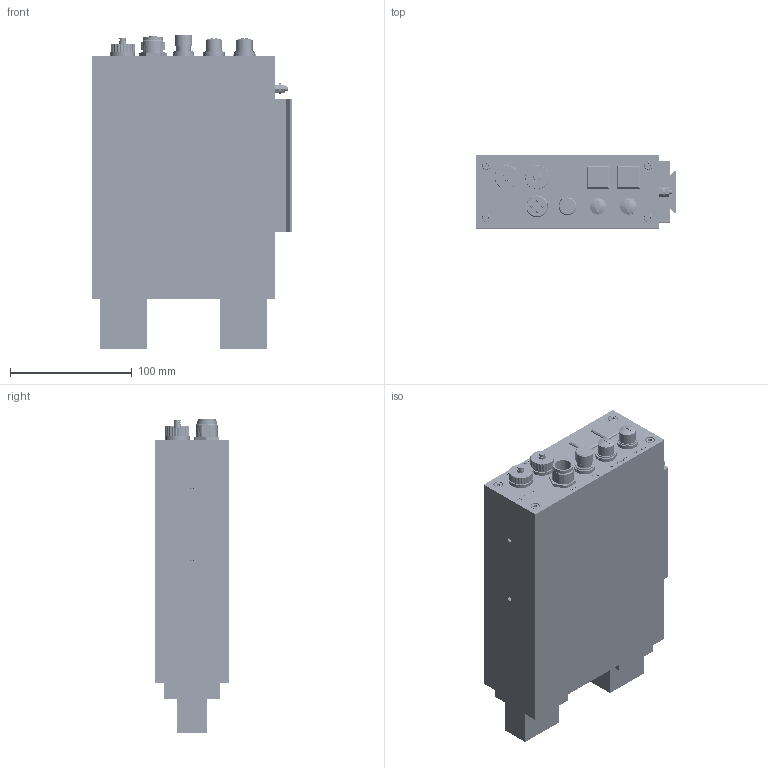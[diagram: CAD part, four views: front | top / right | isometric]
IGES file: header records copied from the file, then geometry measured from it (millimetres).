
Global section: file name: Compact.igs; native system: SolidDesigner 3D IGES; preprocessor: 09.01E  09-Nov-2001; date: 20021023.095547; units: millimetre
Bounding box: 164 x 60 x 258.5 mm (x, y, z)
Surface area: 315683.1 mm2 (no closed solid volume)
Topology: 0 solids, 0 shells, 3815 faces, 34142 edges, 34142 vertices
Faces by surface type: bspline 3261, revolution 554
